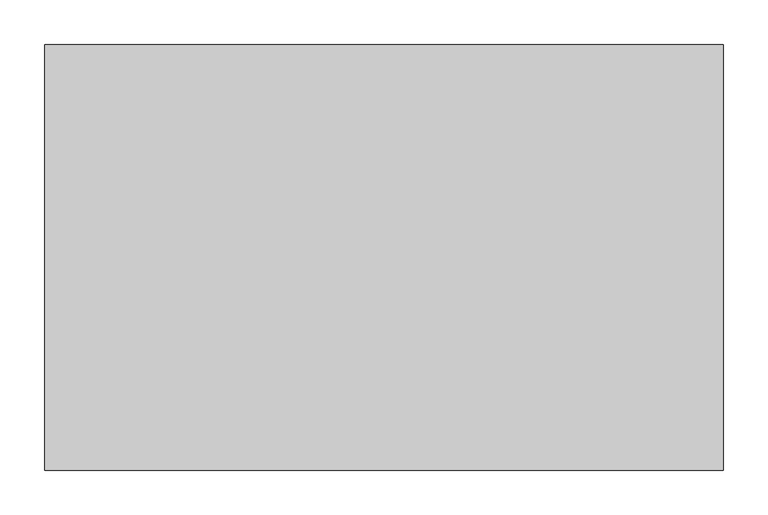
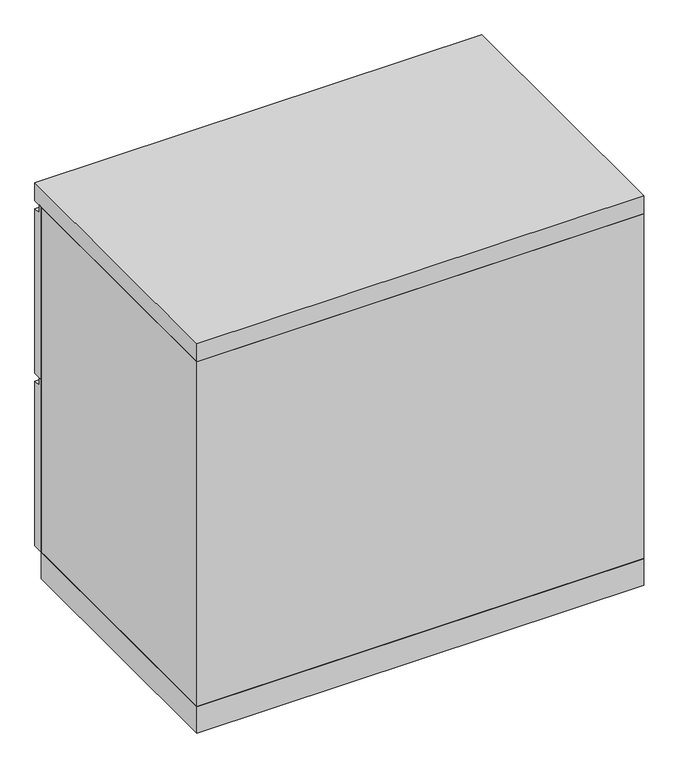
"""IFC4 building model written with IfcOpenShell, lengths in millimetres: furniture geometry, Haworth_XSeries_LateralFile : 18d 30w 27h - Proud Style."""

from ifc_helpers import new_model, si_unit, frame, origin, origin_with_axes, place, context, project, spatial, polyline, outline, extrude, source, transform, mapped, element, save


def furniture_8b4d0ae7(model_context):
    return source(origin(), model_context, "Body", "SweptSolid", [
        extrude(outline(polyline([(457.2, 357.1875), (457.2, 666.75), (463.55, 666.75), (463.55, 652.4625), (476.25, 652.4625), (476.25, 357.1875), (457.2, 357.1875)])), frame((-379.4125, 0.0, 0.0), z_axis=(1.0, 0.0, 0.0), x_axis=(0.0, 1.0, 0.0)), (0.0, 0.0, 1.0), 758.825),
        extrude(outline(polyline([(457.2, 357.1875), (457.2, 666.75), (463.55, 666.75), (463.55, 652.4625), (476.25, 652.4625), (476.25, 357.1875), (457.2, 357.1875)])), frame((-379.4125, 0.0, 0.0), z_axis=(1.0, 0.0, 0.0), x_axis=(0.0, 1.0, 0.0)), (0.0, 0.0, 1.0), 758.825),
        extrude(outline(polyline([(457.2, 47.625), (457.2, 357.1875), (463.55, 357.1875), (463.55, 342.9), (476.25, 342.9), (476.25, 47.625), (457.2, 47.625)])), frame((-379.4125, 0.0, 0.0), z_axis=(1.0, 0.0, 0.0), x_axis=(0.0, 1.0, 0.0)), (0.0, 0.0, 1.0), 758.825),
        extrude(outline(polyline([(379.4125, 0.0), (-379.4125, 0.0), (-379.4125, 457.2), (379.4125, 457.2), (379.4125, 0.0)])), origin_with_axes(), (0.0, 0.0, 1.0), 47.625),
        extrude(outline(polyline([(379.4125, 0.0), (-379.4125, 0.0), (-379.4125, 476.25), (379.4125, 476.25), (379.4125, 0.0)])), frame((0.0, 0.0, 666.75), z_axis=(0.0, 0.0, 1.0), x_axis=(1.0, 0.0, 0.0)), (0.0, 0.0, 1.0), 31.75),
        extrude(outline(polyline([(379.4125, 0.0), (-379.4125, 0.0), (-379.4125, 457.2), (-360.3625, 457.2), (-360.3625, 19.05), (360.3625, 19.05), (360.3625, 457.2), (379.4125, 457.2), (379.4125, 0.0)])), frame((0.0, 0.0, 47.625), z_axis=(0.0, 0.0, 1.0), x_axis=(1.0, 0.0, 0.0)), (0.0, 0.0, 1.0), 619.125),
    ])


if __name__ == "__main__":
    model = new_model("IFC4")
    model_context = context("Model", 3, world=origin())
    ifc_project = project(units=[si_unit("LENGTHUNIT", "METRE", prefix="MILLI")], contexts=[model_context])
    site = spatial("IfcSite", under=ifc_project)
    building = spatial("IfcBuilding", under=site)
    placement = place(None, origin())
    furniture_shape = furniture_8b4d0ae7(model_context)
    element("IfcFurniture", 1, ObjectType="Haworth_XSeries_LateralFile : 18d 30w 27h - Proud Style", at=placement, inside=building, context=model_context, shape_type="MappedRepresentation", body=[
        mapped(furniture_shape, transform((0.0, 0.0, 0.0), x_axis=(1.0, 0.0, 0.0), y_axis=(0.0, 1.0, 0.0), z_axis=(0.0, 0.0, 1.0))),
    ])
    save(model, "model.ifc")
